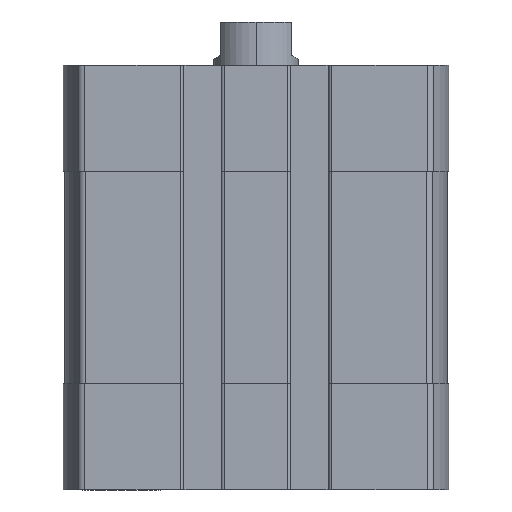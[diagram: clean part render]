
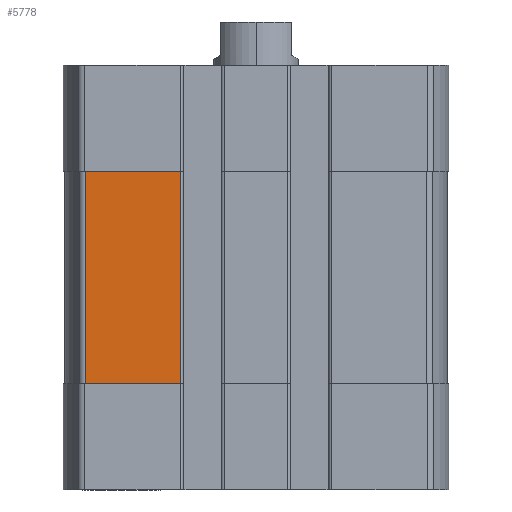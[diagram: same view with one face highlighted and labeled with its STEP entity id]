
A CAD part, left-side view. The second image highlights one B-rep face of the part: STEP entity #5778.
In plain terms, the highlighted planar face has unit normal (-1, 0, 0).
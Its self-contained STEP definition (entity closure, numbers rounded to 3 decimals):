
#11 = PLANE ( 'NONE',  #3135 ) ;
#331 = VECTOR ( 'NONE', #6142, 1000. ) ;
#367 = CARTESIAN_POINT ( 'NONE',  ( -27., 10.7, -15. ) ) ;
#794 = DIRECTION ( 'NONE',  ( -1., 0., 0. ) ) ;
#1045 = ORIENTED_EDGE ( 'NONE', *, *, #12595, .T. ) ;
#1368 = LINE ( 'NONE', #3118, #7111 ) ;
#1399 = DIRECTION ( 'NONE',  ( 0., 0., 1. ) ) ;
#1410 = LINE ( 'NONE', #11098, #13872 ) ;
#2440 = VERTEX_POINT ( 'NONE', #367 ) ;
#2998 = CARTESIAN_POINT ( 'NONE',  ( -27., 0., -15. ) ) ;
#3118 = CARTESIAN_POINT ( 'NONE',  ( -27., 10.7, -45. ) ) ;
#3135 = AXIS2_PLACEMENT_3D ( 'NONE', #15431, #794, #1399 ) ;
#3225 = ORIENTED_EDGE ( 'NONE', *, *, #11700, .T. ) ;
#3638 = VERTEX_POINT ( 'NONE', #8386 ) ;
#4397 = ORIENTED_EDGE ( 'NONE', *, *, #7843, .T. ) ;
#4544 = VERTEX_POINT ( 'NONE', #15530 ) ;
#4874 = CARTESIAN_POINT ( 'NONE',  ( -27., 10.7, -45. ) ) ;
#5778 = ADVANCED_FACE ( 'NONE', ( #10483 ), #11, .T. ) ;
#6142 = DIRECTION ( 'NONE',  ( 0., 0., -1. ) ) ;
#6770 = ORIENTED_EDGE ( 'NONE', *, *, #13968, .T. ) ;
#6793 = VECTOR ( 'NONE', #11477, 1000. ) ;
#7111 = VECTOR ( 'NONE', #12790, 1000. ) ;
#7561 = LINE ( 'NONE', #2998, #6793 ) ;
#7820 = VERTEX_POINT ( 'NONE', #4874 ) ;
#7843 = EDGE_CURVE ( 'NONE', #3638, #4544, #9707, .T. ) ;
#8386 = CARTESIAN_POINT ( 'NONE',  ( -27., 24.093, -15. ) ) ;
#9707 = LINE ( 'NONE', #14476, #331 ) ;
#9988 = DIRECTION ( 'NONE',  ( 0., -1., 0. ) ) ;
#10483 = FACE_OUTER_BOUND ( 'NONE', #14836, .T. ) ;
#11098 = CARTESIAN_POINT ( 'NONE',  ( -27., 24.093, -45. ) ) ;
#11477 = DIRECTION ( 'NONE',  ( 0., 1., 0. ) ) ;
#11700 = EDGE_CURVE ( 'NONE', #2440, #3638, #7561, .T. ) ;
#12595 = EDGE_CURVE ( 'NONE', #4544, #7820, #1410, .T. ) ;
#12790 = DIRECTION ( 'NONE',  ( 0., 0., 1. ) ) ;
#13872 = VECTOR ( 'NONE', #9988, 1000. ) ;
#13968 = EDGE_CURVE ( 'NONE', #7820, #2440, #1368, .T. ) ;
#14476 = CARTESIAN_POINT ( 'NONE',  ( -27., 24.093, -45. ) ) ;
#14836 = EDGE_LOOP ( 'NONE', ( #1045, #6770, #3225, #4397 ) ) ;
#15431 = CARTESIAN_POINT ( 'NONE',  ( -27., 24.093, -45. ) ) ;
#15530 = CARTESIAN_POINT ( 'NONE',  ( -27., 24.093, -45. ) ) ;
